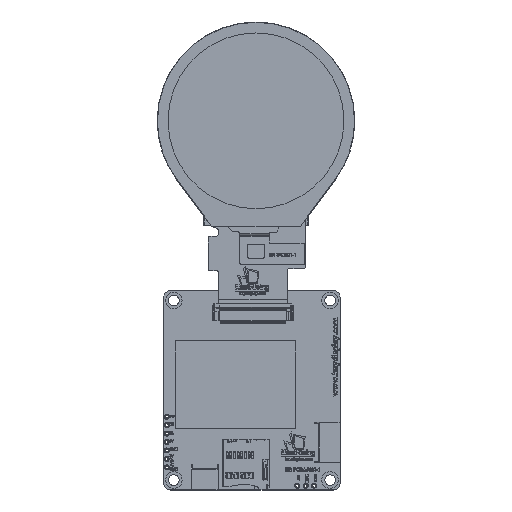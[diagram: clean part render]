
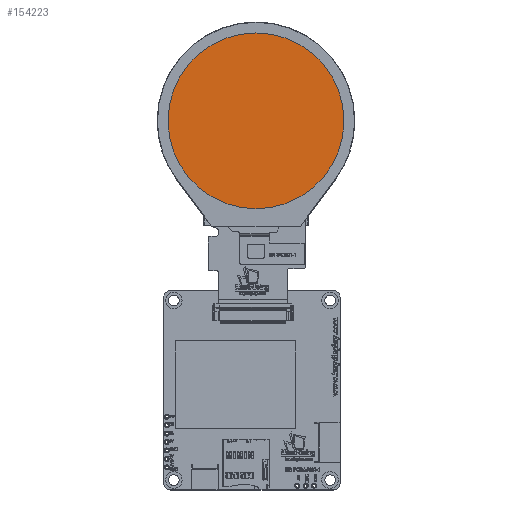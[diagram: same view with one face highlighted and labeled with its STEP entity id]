
A CAD part, top view. The second image highlights one B-rep face of the part: STEP entity #154223.
In plain terms, the highlighted planar face has unit normal (0, 0, 1).
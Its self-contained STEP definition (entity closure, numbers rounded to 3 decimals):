
#10302 = CARTESIAN_POINT ( 'NONE',  ( 0., 0., 4.15 ) ) ;
#43936 = FACE_OUTER_BOUND ( 'NONE', #161374, .T. ) ;
#43995 = ORIENTED_EDGE ( 'NONE', *, *, #205217, .F. ) ;
#54363 = DIRECTION ( 'NONE',  ( 1., 0., 0. ) ) ;
#65223 = AXIS2_PLACEMENT_3D ( 'NONE', #133633, #238380, #54363 ) ;
#75189 = CARTESIAN_POINT ( 'NONE',  ( 0., 0., 4.15 ) ) ;
#90795 = DIRECTION ( 'NONE',  ( 1., 0., 0. ) ) ;
#112815 = CARTESIAN_POINT ( 'NONE',  ( 26.44, 0., 4.15 ) ) ;
#114138 = DIRECTION ( 'NONE',  ( 1., 0., 0. ) ) ;
#116466 = VERTEX_POINT ( 'NONE', #156028 ) ;
#129721 = AXIS2_PLACEMENT_3D ( 'NONE', #10302, #217069, #90795 ) ;
#133633 = CARTESIAN_POINT ( 'NONE',  ( 0., 0., 4.15 ) ) ;
#134284 = ORIENTED_EDGE ( 'NONE', *, *, #246319, .F. ) ;
#154223 = ADVANCED_FACE ( 'NONE', ( #43936 ), #230577, .T. ) ;
#156028 = CARTESIAN_POINT ( 'NONE',  ( -26.44, 0., 4.15 ) ) ;
#161374 = EDGE_LOOP ( 'NONE', ( #43995, #134284 ) ) ;
#175256 = AXIS2_PLACEMENT_3D ( 'NONE', #75189, #253903, #114138 ) ;
#181061 = CIRCLE ( 'NONE', #65223, 26.44 ) ;
#192521 = CIRCLE ( 'NONE', #175256, 26.44 ) ;
#205217 = EDGE_CURVE ( 'NONE', #249172, #116466, #192521, .T. ) ;
#217069 = DIRECTION ( 'NONE',  ( 0., 0., 1. ) ) ;
#230577 = PLANE ( 'NONE',  #129721 ) ;
#238380 = DIRECTION ( 'NONE',  ( 0., 0., -1. ) ) ;
#246319 = EDGE_CURVE ( 'NONE', #116466, #249172, #181061, .T. ) ;
#249172 = VERTEX_POINT ( 'NONE', #112815 ) ;
#253903 = DIRECTION ( 'NONE',  ( 0., 0., -1. ) ) ;
